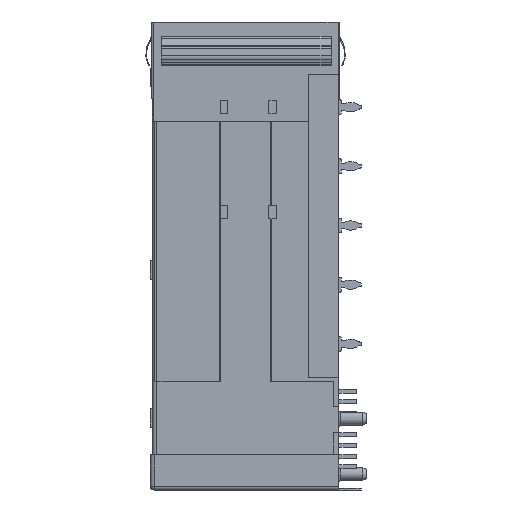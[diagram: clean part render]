
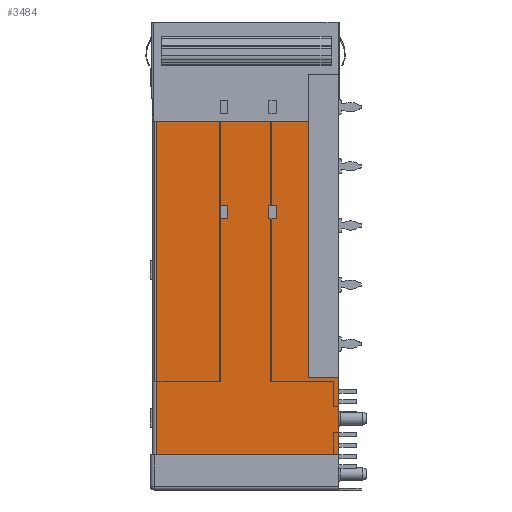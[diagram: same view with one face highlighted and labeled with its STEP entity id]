
A CAD part, left-side view. The second image highlights one B-rep face of the part: STEP entity #3484.
In plain terms, the highlighted planar face has unit normal (-1, 0, 0).
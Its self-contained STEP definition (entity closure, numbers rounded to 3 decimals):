
#1221 = DIRECTION ( 'NONE',  ( 0., -1., 0. ) ) ;
#1430 = LINE ( 'NONE', #94541, #49907 ) ;
#1549 = ORIENTED_EDGE ( 'NONE', *, *, #48356, .T. ) ;
#2282 = LINE ( 'NONE', #87630, #98023 ) ;
#2802 = EDGE_LOOP ( 'NONE', ( #1549, #57325, #50962, #57132 ) ) ;
#2998 = ORIENTED_EDGE ( 'NONE', *, *, #80731, .T. ) ;
#3064 = LINE ( 'NONE', #79080, #93053 ) ;
#3484 = ADVANCED_FACE ( 'NONE', ( #91368, #51065, #27486 ), #30696, .T. ) ;
#4287 = DIRECTION ( 'NONE',  ( 0., -1., 0. ) ) ;
#5563 = CARTESIAN_POINT ( 'NONE',  ( -42.875, 4.1, -13.4 ) ) ;
#6898 = CARTESIAN_POINT ( 'NONE',  ( -42.875, 9.45, -26.6 ) ) ;
#8492 = CARTESIAN_POINT ( 'NONE',  ( -42.875, 16., -26.6 ) ) ;
#8851 = CARTESIAN_POINT ( 'NONE',  ( -42.875, 25.2, -13.4 ) ) ;
#9014 = VECTOR ( 'NONE', #39555, 1000. ) ;
#11515 = ORIENTED_EDGE ( 'NONE', *, *, #55941, .F. ) ;
#11699 = VERTEX_POINT ( 'NONE', #60386 ) ;
#11879 = DIRECTION ( 'NONE',  ( 0., 0., 1. ) ) ;
#12063 = VERTEX_POINT ( 'NONE', #80505 ) ;
#12214 = LINE ( 'NONE', #48819, #45326 ) ;
#12475 = EDGE_CURVE ( 'NONE', #31512, #80824, #96922, .T. ) ;
#14172 = DIRECTION ( 'NONE',  ( -1., 0., 0. ) ) ;
#14506 = CARTESIAN_POINT ( 'NONE',  ( -42.875, 0., -63.25 ) ) ;
#15681 = CARTESIAN_POINT ( 'NONE',  ( -42.875, 4.1, -48.1 ) ) ;
#16240 = DIRECTION ( 'NONE',  ( 0., 0., -1. ) ) ;
#16581 = CARTESIAN_POINT ( 'NONE',  ( -42.875, 8.45, -24.8 ) ) ;
#17269 = CARTESIAN_POINT ( 'NONE',  ( -42.875, 4.1, -7.1 ) ) ;
#17743 = VERTEX_POINT ( 'NONE', #36635 ) ;
#18246 = DIRECTION ( 'NONE',  ( 0., -1., 0. ) ) ;
#19164 = CARTESIAN_POINT ( 'NONE',  ( -42.875, 0., -63.25 ) ) ;
#20335 = ORIENTED_EDGE ( 'NONE', *, *, #88331, .T. ) ;
#22178 = EDGE_CURVE ( 'NONE', #64757, #73392, #37463, .T. ) ;
#22241 = DIRECTION ( 'NONE',  ( 0., 1., 0. ) ) ;
#24274 = EDGE_CURVE ( 'NONE', #12063, #62633, #64343, .T. ) ;
#24414 = CARTESIAN_POINT ( 'NONE',  ( -42.875, 0., -48.1 ) ) ;
#25247 = EDGE_CURVE ( 'NONE', #96317, #31512, #1430, .T. ) ;
#27486 = FACE_OUTER_BOUND ( 'NONE', #66047, .T. ) ;
#27690 = EDGE_LOOP ( 'NONE', ( #33531, #87375, #92674, #86976 ) ) ;
#30696 = PLANE ( 'NONE',  #54540 ) ;
#30944 = CARTESIAN_POINT ( 'NONE',  ( -42.875, 15., -24.8 ) ) ;
#31512 = VERTEX_POINT ( 'NONE', #15681 ) ;
#31938 = LINE ( 'NONE', #74372, #67404 ) ;
#32098 = VERTEX_POINT ( 'NONE', #89389 ) ;
#33531 = ORIENTED_EDGE ( 'NONE', *, *, #77069, .T. ) ;
#36031 = VECTOR ( 'NONE', #1221, 1000. ) ;
#36635 = CARTESIAN_POINT ( 'NONE',  ( -42.875, 24.7, -58.5 ) ) ;
#37463 = LINE ( 'NONE', #78972, #82458 ) ;
#38571 = CARTESIAN_POINT ( 'NONE',  ( -42.875, 9.45, -24.8 ) ) ;
#38897 = VECTOR ( 'NONE', #69485, 1000. ) ;
#39555 = DIRECTION ( 'NONE',  ( 0., 0., 1. ) ) ;
#42882 = DIRECTION ( 'NONE',  ( 0., 1., 0. ) ) ;
#44457 = VECTOR ( 'NONE', #16240, 1000. ) ;
#45326 = VECTOR ( 'NONE', #94186, 1000. ) ;
#48356 = EDGE_CURVE ( 'NONE', #87024, #32098, #3064, .T. ) ;
#48666 = EDGE_CURVE ( 'NONE', #73392, #94604, #52696, .T. ) ;
#48819 = CARTESIAN_POINT ( 'NONE',  ( -42.875, 24.7, -63.25 ) ) ;
#49372 = VERTEX_POINT ( 'NONE', #30944 ) ;
#49907 = VECTOR ( 'NONE', #42882, 1000. ) ;
#50962 = ORIENTED_EDGE ( 'NONE', *, *, #24274, .T. ) ;
#51065 = FACE_BOUND ( 'NONE', #27690, .T. ) ;
#51870 = VECTOR ( 'NONE', #91113, 1000. ) ;
#52418 = CARTESIAN_POINT ( 'NONE',  ( -42.875, 15., -24.8 ) ) ;
#52696 = LINE ( 'NONE', #59505, #58568 ) ;
#53518 = ORIENTED_EDGE ( 'NONE', *, *, #12475, .T. ) ;
#54540 = AXIS2_PLACEMENT_3D ( 'NONE', #14506, #14172, #97865 ) ;
#55941 = EDGE_CURVE ( 'NONE', #11699, #80824, #58541, .T. ) ;
#56118 = VECTOR ( 'NONE', #22241, 1000. ) ;
#57132 = ORIENTED_EDGE ( 'NONE', *, *, #81149, .T. ) ;
#57325 = ORIENTED_EDGE ( 'NONE', *, *, #58257, .T. ) ;
#58257 = EDGE_CURVE ( 'NONE', #32098, #12063, #59811, .T. ) ;
#58541 = LINE ( 'NONE', #8851, #36031 ) ;
#58568 = VECTOR ( 'NONE', #60163, 1000. ) ;
#59505 = CARTESIAN_POINT ( 'NONE',  ( -42.875, 16., -24.8 ) ) ;
#59539 = EDGE_CURVE ( 'NONE', #11699, #17743, #12214, .T. ) ;
#59811 = LINE ( 'NONE', #16581, #44457 ) ;
#60163 = DIRECTION ( 'NONE',  ( 0., 0., 1. ) ) ;
#60386 = CARTESIAN_POINT ( 'NONE',  ( -42.875, 24.7, -13.4 ) ) ;
#61407 = ORIENTED_EDGE ( 'NONE', *, *, #25247, .T. ) ;
#62633 = VERTEX_POINT ( 'NONE', #6898 ) ;
#64343 = LINE ( 'NONE', #66539, #56118 ) ;
#64714 = DIRECTION ( 'NONE',  ( 0., 1., 0. ) ) ;
#64757 = VERTEX_POINT ( 'NONE', #87898 ) ;
#66047 = EDGE_LOOP ( 'NONE', ( #11515, #66614, #20335, #2998, #61407, #53518 ) ) ;
#66539 = CARTESIAN_POINT ( 'NONE',  ( -42.875, 9.45, -26.6 ) ) ;
#66614 = ORIENTED_EDGE ( 'NONE', *, *, #59539, .T. ) ;
#66872 = LINE ( 'NONE', #19164, #97065 ) ;
#67318 = CARTESIAN_POINT ( 'NONE',  ( -42.875, 16., -24.8 ) ) ;
#67404 = VECTOR ( 'NONE', #96273, 1000. ) ;
#67812 = EDGE_CURVE ( 'NONE', #49372, #64757, #92145, .T. ) ;
#69485 = DIRECTION ( 'NONE',  ( 0., 0., 1. ) ) ;
#73392 = VERTEX_POINT ( 'NONE', #8492 ) ;
#74372 = CARTESIAN_POINT ( 'NONE',  ( -42.875, 16., -24.8 ) ) ;
#77069 = EDGE_CURVE ( 'NONE', #94604, #49372, #31938, .T. ) ;
#77602 = LINE ( 'NONE', #38571, #9014 ) ;
#77707 = VERTEX_POINT ( 'NONE', #97770 ) ;
#78972 = CARTESIAN_POINT ( 'NONE',  ( -42.875, 16., -26.6 ) ) ;
#79080 = CARTESIAN_POINT ( 'NONE',  ( -42.875, 9.45, -24.8 ) ) ;
#80505 = CARTESIAN_POINT ( 'NONE',  ( -42.875, 8.45, -26.6 ) ) ;
#80731 = EDGE_CURVE ( 'NONE', #77707, #96317, #66872, .T. ) ;
#80824 = VERTEX_POINT ( 'NONE', #5563 ) ;
#81149 = EDGE_CURVE ( 'NONE', #62633, #87024, #77602, .T. ) ;
#82458 = VECTOR ( 'NONE', #64714, 1000. ) ;
#86976 = ORIENTED_EDGE ( 'NONE', *, *, #48666, .T. ) ;
#87024 = VERTEX_POINT ( 'NONE', #93443 ) ;
#87375 = ORIENTED_EDGE ( 'NONE', *, *, #67812, .T. ) ;
#87630 = CARTESIAN_POINT ( 'NONE',  ( -42.875, 25.2, -58.5 ) ) ;
#87898 = CARTESIAN_POINT ( 'NONE',  ( -42.875, 15., -26.6 ) ) ;
#88331 = EDGE_CURVE ( 'NONE', #17743, #77707, #2282, .T. ) ;
#89389 = CARTESIAN_POINT ( 'NONE',  ( -42.875, 8.45, -24.8 ) ) ;
#91113 = DIRECTION ( 'NONE',  ( 0., 0., -1. ) ) ;
#91368 = FACE_BOUND ( 'NONE', #2802, .T. ) ;
#92145 = LINE ( 'NONE', #52418, #51870 ) ;
#92674 = ORIENTED_EDGE ( 'NONE', *, *, #22178, .T. ) ;
#93053 = VECTOR ( 'NONE', #18246, 1000. ) ;
#93443 = CARTESIAN_POINT ( 'NONE',  ( -42.875, 9.45, -24.8 ) ) ;
#94186 = DIRECTION ( 'NONE',  ( 0., 0., -1. ) ) ;
#94541 = CARTESIAN_POINT ( 'NONE',  ( -42.875, 0., -48.1 ) ) ;
#94604 = VERTEX_POINT ( 'NONE', #67318 ) ;
#96273 = DIRECTION ( 'NONE',  ( 0., -1., 0. ) ) ;
#96317 = VERTEX_POINT ( 'NONE', #24414 ) ;
#96922 = LINE ( 'NONE', #17269, #38897 ) ;
#97065 = VECTOR ( 'NONE', #11879, 1000. ) ;
#97770 = CARTESIAN_POINT ( 'NONE',  ( -42.875, 0., -58.5 ) ) ;
#97865 = DIRECTION ( 'NONE',  ( 0., 0., 1. ) ) ;
#98023 = VECTOR ( 'NONE', #4287, 1000. ) ;
